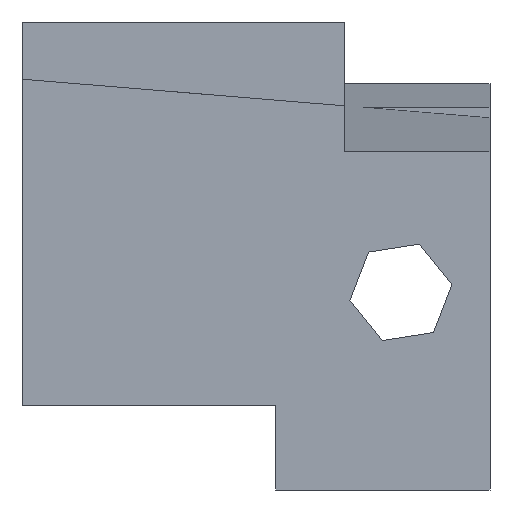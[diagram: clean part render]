
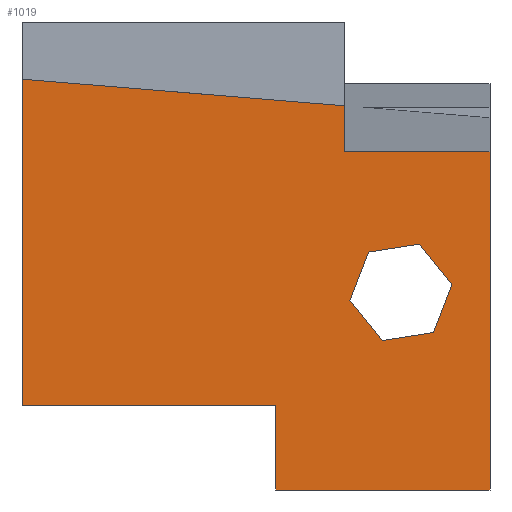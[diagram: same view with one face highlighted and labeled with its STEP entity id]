
A CAD part, front view. The second image highlights one B-rep face of the part: STEP entity #1019.
In plain terms, the highlighted planar face has unit normal (0, -1, 0).
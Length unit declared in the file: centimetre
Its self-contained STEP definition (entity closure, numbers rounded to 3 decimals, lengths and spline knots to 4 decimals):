
#23 = CARTESIAN_POINT ( 'NONE',  ( 689.0965, 0., 820.9069 ) ) ;
#36 = ORIENTED_EDGE ( 'NONE', *, *, #1206, .T. ) ;
#45 = VECTOR ( 'NONE', #694, 100. ) ;
#49 = CARTESIAN_POINT ( 'NONE',  ( 0., 0., 1000. ) ) ;
#78 = EDGE_CURVE ( 'NONE', #417, #142, #774, .T. ) ;
#95 = ORIENTED_EDGE ( 'NONE', *, *, #378, .T. ) ;
#101 = VECTOR ( 'NONE', #159, 100. ) ;
#120 = EDGE_CURVE ( 'NONE', #391, #476, #877, .T. ) ;
#135 = ORIENTED_EDGE ( 'NONE', *, *, #995, .T. ) ;
#142 = VERTEX_POINT ( 'NONE', #255 ) ;
#147 = VECTOR ( 'NONE', #825, 100. ) ;
#150 = LINE ( 'NONE', #156, #166 ) ;
#156 = CARTESIAN_POINT ( 'NONE',  ( 1000., 0., 795.259 ) ) ;
#159 = DIRECTION ( 'NONE',  ( -0.629, 0., 0.777 ) ) ;
#162 = VERTEX_POINT ( 'NONE', #992 ) ;
#166 = VECTOR ( 'NONE', #572, 100. ) ;
#173 = CARTESIAN_POINT ( 'NONE',  ( 689.0965, 0., 722.6768 ) ) ;
#178 = LINE ( 'NONE', #824, #1351 ) ;
#188 = VECTOR ( 'NONE', #651, 100. ) ;
#197 = ORIENTED_EDGE ( 'NONE', *, *, #855, .F. ) ;
#204 = VERTEX_POINT ( 'NONE', #1199 ) ;
#217 = LINE ( 'NONE', #235, #188 ) ;
#223 = CARTESIAN_POINT ( 'NONE',  ( 918.7465, 0., 439.6584 ) ) ;
#226 = CARTESIAN_POINT ( 'NONE',  ( 849.2698, 0., 525.4952 ) ) ;
#228 = ORIENTED_EDGE ( 'NONE', *, *, #1043, .T. ) ;
#235 = CARTESIAN_POINT ( 'NONE',  ( 541.9023, 0., 180.9652 ) ) ;
#241 = ORIENTED_EDGE ( 'NONE', *, *, #120, .F. ) ;
#242 = CARTESIAN_POINT ( 'NONE',  ( 700.5961, 0., 405.1581 ) ) ;
#243 = CARTESIAN_POINT ( 'NONE',  ( 541.9023, 0., 180.9652 ) ) ;
#255 = CARTESIAN_POINT ( 'NONE',  ( 740.1946, 0., 508.2451 ) ) ;
#302 = VECTOR ( 'NONE', #311, 100. ) ;
#311 = DIRECTION ( 'NONE',  ( 0., 0., 1. ) ) ;
#360 = DIRECTION ( 'NONE',  ( 0., 0., 1. ) ) ;
#373 = CARTESIAN_POINT ( 'NONE',  ( 0., 0., 0. ) ) ;
#378 = EDGE_CURVE ( 'NONE', #1319, #888, #1159, .T. ) ;
#382 = CARTESIAN_POINT ( 'NONE',  ( 541.9023, 0., 0. ) ) ;
#390 = VECTOR ( 'NONE', #1098, 100. ) ;
#391 = VERTEX_POINT ( 'NONE', #23 ) ;
#393 = DIRECTION ( 'NONE',  ( 0., 0., -1. ) ) ;
#395 = EDGE_CURVE ( 'NONE', #476, #463, #1070, .T. ) ;
#401 = EDGE_LOOP ( 'NONE', ( #95, #36, #1145, #135, #803, #761 ) ) ;
#417 = VERTEX_POINT ( 'NONE', #866 ) ;
#463 = VERTEX_POINT ( 'NONE', #657 ) ;
#476 = VERTEX_POINT ( 'NONE', #173 ) ;
#487 = EDGE_CURVE ( 'NONE', #463, #204, #519, .T. ) ;
#488 = LINE ( 'NONE', #819, #957 ) ;
#512 = LINE ( 'NONE', #933, #147 ) ;
#519 = LINE ( 'NONE', #919, #1083 ) ;
#523 = EDGE_CURVE ( 'NONE', #142, #1319, #512, .T. ) ;
#559 = EDGE_LOOP ( 'NONE', ( #1193, #197, #975, #228, #1314, #1327, #241, #601 ) ) ;
#572 = DIRECTION ( 'NONE',  ( 0.997, 0., -0.082 ) ) ;
#601 = ORIENTED_EDGE ( 'NONE', *, *, #764, .F. ) ;
#645 = CARTESIAN_POINT ( 'NONE',  ( 541.9023, 0., 180.9652 ) ) ;
#648 = DIRECTION ( 'NONE',  ( 0.629, 0., -0.777 ) ) ;
#651 = DIRECTION ( 'NONE',  ( -1., 0., 0. ) ) ;
#657 = CARTESIAN_POINT ( 'NONE',  ( 1000., 0., 722.6768 ) ) ;
#658 = VECTOR ( 'NONE', #648, 100. ) ;
#669 = FACE_OUTER_BOUND ( 'NONE', #559, .T. ) ;
#672 = LINE ( 'NONE', #880, #1016 ) ;
#691 = DIRECTION ( 'NONE',  ( 0., 1., 0. ) ) ;
#694 = DIRECTION ( 'NONE',  ( 0.359, 0., 0.933 ) ) ;
#724 = VECTOR ( 'NONE', #1205, 100. ) ;
#756 = EDGE_CURVE ( 'NONE', #1353, #872, #672, .T. ) ;
#761 = ORIENTED_EDGE ( 'NONE', *, *, #523, .T. ) ;
#764 = EDGE_CURVE ( 'NONE', #162, #391, #150, .T. ) ;
#774 = LINE ( 'NONE', #242, #45 ) ;
#795 = FACE_BOUND ( 'NONE', #401, .T. ) ;
#801 = CARTESIAN_POINT ( 'NONE',  ( 770.0727, 0., 319.3213 ) ) ;
#803 = ORIENTED_EDGE ( 'NONE', *, *, #78, .T. ) ;
#809 = VECTOR ( 'NONE', #873, 100. ) ;
#819 = CARTESIAN_POINT ( 'NONE',  ( 0., 0., 1000. ) ) ;
#824 = CARTESIAN_POINT ( 'NONE',  ( 918.7465, 0., 439.6584 ) ) ;
#825 = DIRECTION ( 'NONE',  ( 0.988, 0., 0.156 ) ) ;
#855 = EDGE_CURVE ( 'NONE', #969, #1222, #217, .T. ) ;
#866 = CARTESIAN_POINT ( 'NONE',  ( 700.5961, 0., 405.1581 ) ) ;
#872 = VERTEX_POINT ( 'NONE', #1058 ) ;
#873 = DIRECTION ( 'NONE',  ( 1., 0., 0. ) ) ;
#877 = LINE ( 'NONE', #1292, #390 ) ;
#878 = PLANE ( 'NONE',  #980 ) ;
#880 = CARTESIAN_POINT ( 'NONE',  ( 879.148, 0., 336.5714 ) ) ;
#888 = VERTEX_POINT ( 'NONE', #223 ) ;
#893 = EDGE_CURVE ( 'NONE', #1093, #969, #965, .T. ) ;
#905 = CARTESIAN_POINT ( 'NONE',  ( 879.148, 0., 336.5714 ) ) ;
#910 = CARTESIAN_POINT ( 'NONE',  ( 0., 0., 180.9652 ) ) ;
#919 = CARTESIAN_POINT ( 'NONE',  ( 1000., 0., 1000. ) ) ;
#933 = CARTESIAN_POINT ( 'NONE',  ( 740.1946, 0., 508.2451 ) ) ;
#957 = VECTOR ( 'NONE', #393, 100. ) ;
#965 = LINE ( 'NONE', #645, #302 ) ;
#969 = VERTEX_POINT ( 'NONE', #243 ) ;
#972 = LINE ( 'NONE', #801, #101 ) ;
#975 = ORIENTED_EDGE ( 'NONE', *, *, #893, .F. ) ;
#980 = AXIS2_PLACEMENT_3D ( 'NONE', #49, #691, #360 ) ;
#992 = CARTESIAN_POINT ( 'NONE',  ( 0., 0., 877.7537 ) ) ;
#995 = EDGE_CURVE ( 'NONE', #872, #417, #972, .T. ) ;
#1016 = VECTOR ( 'NONE', #1092, 100. ) ;
#1018 = DIRECTION ( 'NONE',  ( -0.359, 0., -0.933 ) ) ;
#1019 = ADVANCED_FACE ( 'NONE', ( #795, #669 ), #878, .F. ) ;
#1043 = EDGE_CURVE ( 'NONE', #1093, #204, #1090, .T. ) ;
#1058 = CARTESIAN_POINT ( 'NONE',  ( 770.0727, 0., 319.3213 ) ) ;
#1070 = LINE ( 'NONE', #1281, #809 ) ;
#1083 = VECTOR ( 'NONE', #1332, 100. ) ;
#1090 = LINE ( 'NONE', #373, #724 ) ;
#1092 = DIRECTION ( 'NONE',  ( -0.988, 0., -0.156 ) ) ;
#1093 = VERTEX_POINT ( 'NONE', #382 ) ;
#1098 = DIRECTION ( 'NONE',  ( 0., 0., -1. ) ) ;
#1125 = EDGE_CURVE ( 'NONE', #162, #1222, #488, .T. ) ;
#1128 = CARTESIAN_POINT ( 'NONE',  ( 849.2698, 0., 525.4952 ) ) ;
#1145 = ORIENTED_EDGE ( 'NONE', *, *, #756, .T. ) ;
#1159 = LINE ( 'NONE', #226, #658 ) ;
#1193 = ORIENTED_EDGE ( 'NONE', *, *, #1125, .T. ) ;
#1199 = CARTESIAN_POINT ( 'NONE',  ( 1000., 0., 0. ) ) ;
#1205 = DIRECTION ( 'NONE',  ( 1., 0., 0. ) ) ;
#1206 = EDGE_CURVE ( 'NONE', #888, #1353, #178, .T. ) ;
#1222 = VERTEX_POINT ( 'NONE', #910 ) ;
#1281 = CARTESIAN_POINT ( 'NONE',  ( 689.0965, 0., 722.6768 ) ) ;
#1292 = CARTESIAN_POINT ( 'NONE',  ( 689.0965, 0., 722.6768 ) ) ;
#1314 = ORIENTED_EDGE ( 'NONE', *, *, #487, .F. ) ;
#1319 = VERTEX_POINT ( 'NONE', #1128 ) ;
#1327 = ORIENTED_EDGE ( 'NONE', *, *, #395, .F. ) ;
#1332 = DIRECTION ( 'NONE',  ( 0., 0., -1. ) ) ;
#1351 = VECTOR ( 'NONE', #1018, 100. ) ;
#1353 = VERTEX_POINT ( 'NONE', #905 ) ;
